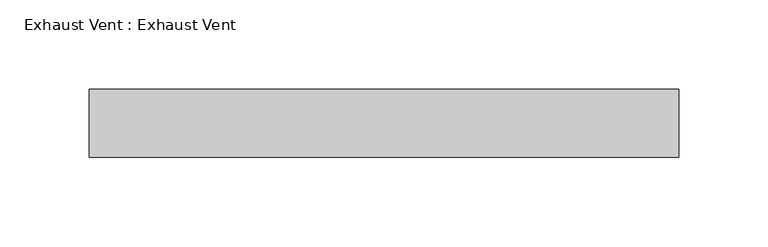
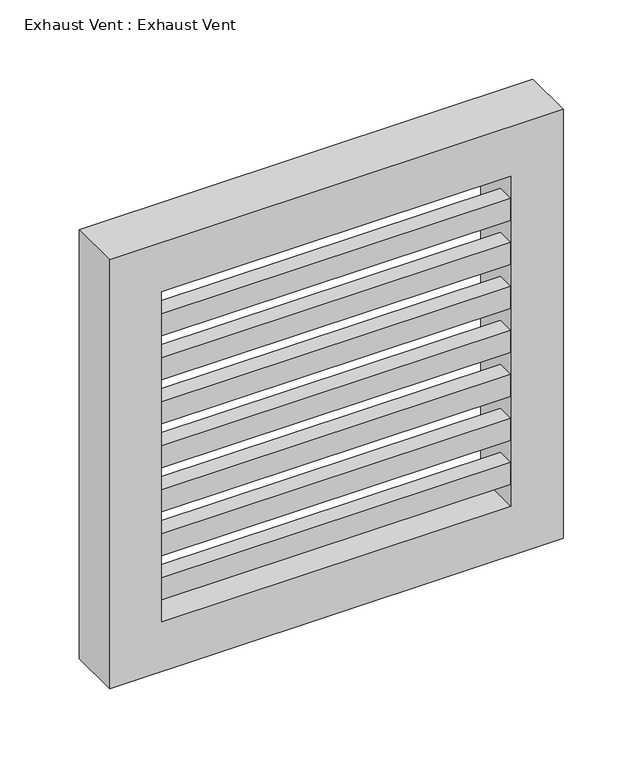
"""IFC4 building model written with IfcOpenShell, lengths in millimetres: proxy geometry, Exhaust Vent : Exhaust Vent."""

from ifc_helpers import new_model, si_unit, frame, origin, place, context, project, spatial, polyline, outline, extrude, source, transform, mapped, element, save


def exhaust_vent_exhaust_vent_1fa0dc92(model_context):
    return source(origin(), model_context, "Body", "SweptSolid", [
        extrude(outline(polyline([(2120.9, -173.2443955), (1790.7, -173.2443955), (1790.7, 156.9556045), (2120.9, 156.9556045), (2120.9, -173.2443955)]), holes=[polyline([(2082.8, 118.8556045), (1828.8, 118.8556045), (1828.8, -135.1443955), (2082.8, -135.1443955), (2082.8, 118.8556045)])]), frame((0.0, 177.8, 0.0), z_axis=(0.0, 1.0, 0.0), x_axis=(0.0, 0.0, 1.0)), (0.0, 0.0, 1.0), 38.1),
        extrude(outline(polyline([(118.8556045, 177.8), (-135.1443955, 177.8), (-135.1443955, 190.5), (118.8556045, 190.5), (118.8556045, 177.8)])), frame((0.0, 0.0, 2048.9333333), z_axis=(0.0, 0.0, 1.0), x_axis=(1.0, 0.0, 0.0)), (0.0, 0.0, 1.0), 16.9333333),
        extrude(outline(polyline([(118.8556045, 177.8), (-135.1443955, 177.8), (-135.1443955, 190.5), (118.8556045, 190.5), (118.8556045, 177.8)])), frame((0.0, 0.0, 2015.0666667), z_axis=(0.0, 0.0, 1.0), x_axis=(1.0, 0.0, 0.0)), (0.0, 0.0, 1.0), 16.9333333),
        extrude(outline(polyline([(118.8556045, 177.8), (-135.1443955, 177.8), (-135.1443955, 190.5), (118.8556045, 190.5), (118.8556045, 177.8)])), frame((0.0, 0.0, 1981.2), z_axis=(0.0, 0.0, 1.0), x_axis=(1.0, 0.0, 0.0)), (0.0, 0.0, 1.0), 16.9333333),
        extrude(outline(polyline([(118.8556045, 177.8), (-135.1443955, 177.8), (-135.1443955, 190.5), (118.8556045, 190.5), (118.8556045, 177.8)])), frame((0.0, 0.0, 1947.3333333), z_axis=(0.0, 0.0, 1.0), x_axis=(1.0, 0.0, 0.0)), (0.0, 0.0, 1.0), 16.9333333),
        extrude(outline(polyline([(118.8556045, 177.8), (-135.1443955, 177.8), (-135.1443955, 190.5), (118.8556045, 190.5), (118.8556045, 177.8)])), frame((0.0, 0.0, 1913.4666667), z_axis=(0.0, 0.0, 1.0), x_axis=(1.0, 0.0, 0.0)), (0.0, 0.0, 1.0), 16.9333333),
        extrude(outline(polyline([(118.8556045, 177.8), (-135.1443955, 177.8), (-135.1443955, 190.5), (118.8556045, 190.5), (118.8556045, 177.8)])), frame((0.0, 0.0, 1879.6), z_axis=(0.0, 0.0, 1.0), x_axis=(1.0, 0.0, 0.0)), (0.0, 0.0, 1.0), 16.9333333),
        extrude(outline(polyline([(118.8556045, 177.8), (-135.1443955, 177.8), (-135.1443955, 190.5), (118.8556045, 190.5), (118.8556045, 177.8)])), frame((0.0, 0.0, 1845.7333333), z_axis=(0.0, 0.0, 1.0), x_axis=(1.0, 0.0, 0.0)), (0.0, 0.0, 1.0), 16.9333333),
    ])


if __name__ == "__main__":
    model = new_model("IFC4")
    model_context = context("Model", 3, world=origin())
    ifc_project = project(units=[si_unit("LENGTHUNIT", "METRE", prefix="MILLI")], contexts=[model_context])
    site = spatial("IfcSite", under=ifc_project)
    building = spatial("IfcBuilding", under=site)
    placement = place(None, origin())
    exhaust_vent_exhaust_vent_shape = exhaust_vent_exhaust_vent_1fa0dc92(model_context)
    element("IfcBuildingElementProxy", 1, Name="Exhaust Vent : Exhaust Vent", ObjectType="Exhaust Vent : Exhaust Vent", at=placement, inside=building, context=model_context, shape_type="MappedRepresentation", body=[
        mapped(exhaust_vent_exhaust_vent_shape, transform((0.0, 0.0, 0.0), x_axis=(1.0, 0.0, 0.0), y_axis=(0.0, 1.0, 0.0), z_axis=(0.0, 0.0, 1.0))),
    ])
    save(model, "model.ifc")
